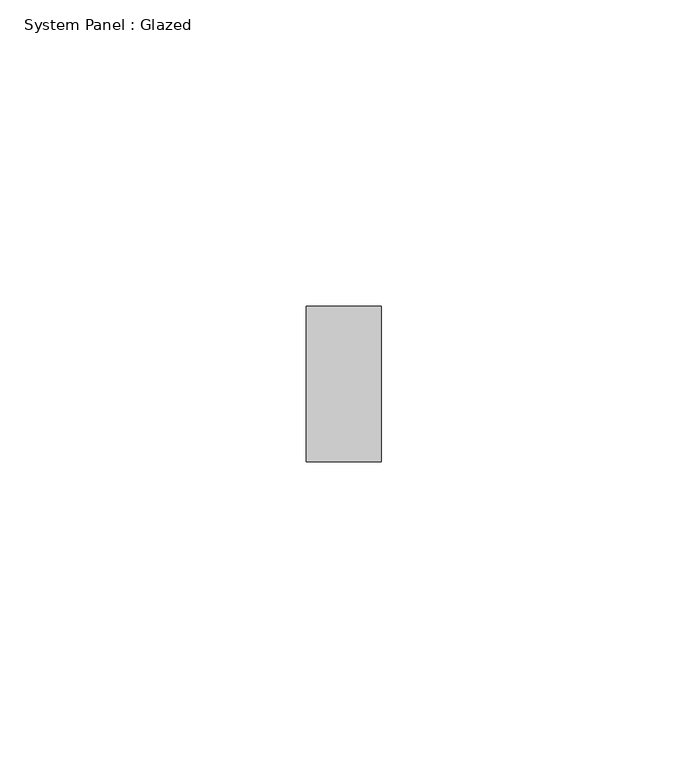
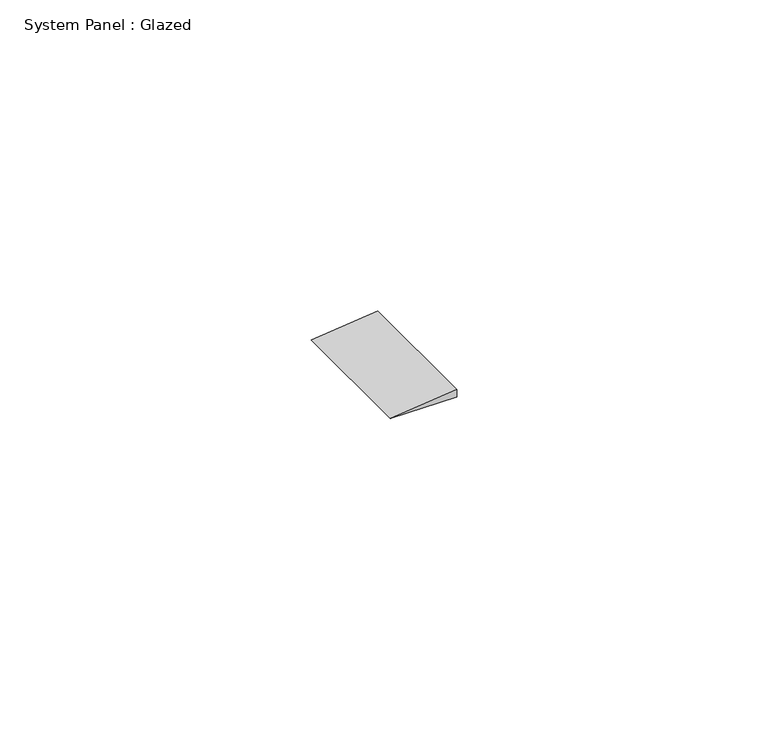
"""IFC4 building model written with IfcOpenShell, lengths in millimetres: plate geometry, System Panel : Glazed."""

from ifc_helpers import new_model, si_unit, frame, origin, place, context, project, spatial, polyline, outline, extrude, source, transform, mapped, element, save


def system_panel_glazed_b2ff54e6(model_context):
    return source(origin(), model_context, "Body", "SweptSolid", [
        extrude(outline(polyline([(0.0, -6.1284955), (0.0, 6.1284955), (1.3870951, 6.1284955), (0.0, -6.1284955)])), frame((0.0, 19.05, 0.0), z_axis=(0.0, 1.0, 0.0), x_axis=(0.0, 0.0, 1.0)), (0.0, 0.0, 1.0), 25.4),
    ])


if __name__ == "__main__":
    model = new_model("IFC4")
    model_context = context("Model", 3, world=origin())
    ifc_project = project(units=[si_unit("LENGTHUNIT", "METRE", prefix="MILLI")], contexts=[model_context])
    site = spatial("IfcSite", under=ifc_project)
    building = spatial("IfcBuilding", under=site)
    placement = place(None, origin())
    system_panel_glazed_shape = system_panel_glazed_b2ff54e6(model_context)
    element("IfcPlate", 1, ObjectType="System Panel : Glazed", at=placement, inside=building, context=model_context, shape_type="MappedRepresentation", body=[
        mapped(system_panel_glazed_shape, transform((0.0, 0.0, 0.0), x_axis=(1.0, 0.0, 0.0), y_axis=(0.0, 1.0, 0.0), z_axis=(0.0, 0.0, 1.0))),
    ])
    save(model, "model.ifc")
